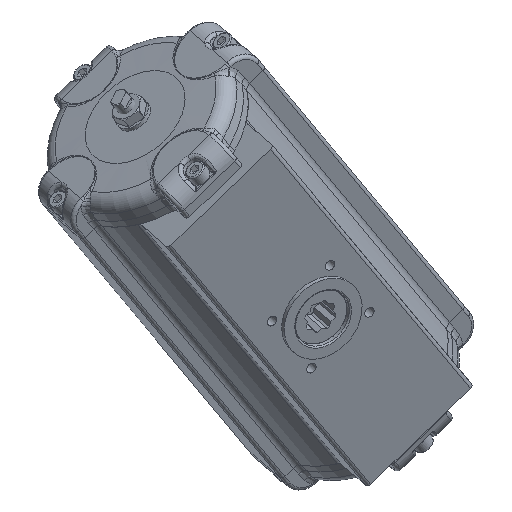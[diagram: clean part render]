
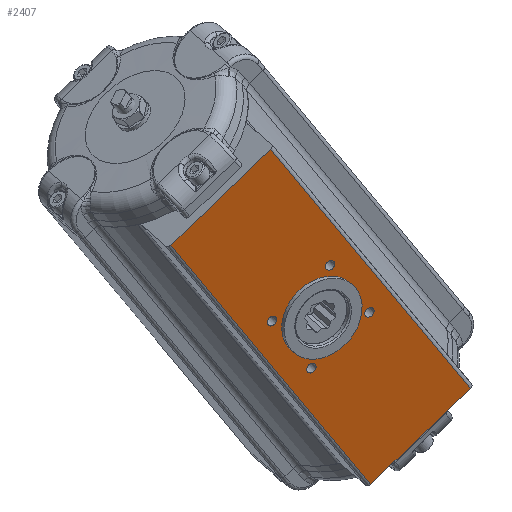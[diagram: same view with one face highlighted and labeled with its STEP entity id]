
A CAD part, isometric view. The second image highlights one B-rep face of the part: STEP entity #2407.
In plain terms, the highlighted planar face has unit normal (-0.259, -0.962, 0.084).
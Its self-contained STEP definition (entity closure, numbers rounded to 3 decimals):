
#660=CARTESIAN_POINT('',(-86.904,-43.078,72.634));
#661=VERTEX_POINT('',#660);
#669=CARTESIAN_POINT('',(-15.8,-58.354,116.633));
#670=VERTEX_POINT('',#669);
#671=CARTESIAN_POINT('',(-15.8,-58.354,116.633));
#672=DIRECTION('',(-0.837,0.18,-0.518));
#673=VECTOR('',#672,85.);
#674=LINE('',#671,#673);
#675=EDGE_CURVE('',#670,#661,#674,.T.);
#1009=CARTESIAN_POINT('',(105.859,-109.841,-97.848));
#1010=VERTEX_POINT('',#1009);
#1018=CARTESIAN_POINT('',(34.755,-94.566,-141.847));
#1019=VERTEX_POINT('',#1018);
#1020=CARTESIAN_POINT('',(34.755,-94.566,-141.847));
#1021=DIRECTION('',(0.837,-0.18,0.518));
#1022=VECTOR('',#1021,85.);
#1023=LINE('',#1020,#1022);
#1024=EDGE_CURVE('',#1019,#1010,#1023,.T.);
#1474=CARTESIAN_POINT('',(-20.398,-67.551,-2.625));
#1475=VERTEX_POINT('',#1474);
#1476=CARTESIAN_POINT('',(-23.178,-66.953,-4.345));
#1477=DIRECTION('',(0.259,0.962,-0.084));
#1478=DIRECTION('',(0.837,-0.18,0.518));
#1479=AXIS2_PLACEMENT_3D('',#1476,#1477,#1478);
#1480=CIRCLE('',#1479,3.324);
#1481=EDGE_CURVE('',#1475,#1475,#1480,.T.);
#1553=CARTESIAN_POINT('',(44.913,-86.563,-19.148));
#1554=VERTEX_POINT('',#1553);
#1555=CARTESIAN_POINT('',(42.133,-85.966,-20.869));
#1556=DIRECTION('',(0.259,0.962,-0.084));
#1557=DIRECTION('',(0.837,-0.18,0.518));
#1558=AXIS2_PLACEMENT_3D('',#1555,#1556,#1557);
#1559=CIRCLE('',#1558,3.324);
#1560=EDGE_CURVE('',#1554,#1554,#1559,.T.);
#1632=CARTESIAN_POINT('',(3.508,-77.668,-44.77));
#1633=VERTEX_POINT('',#1632);
#1634=CARTESIAN_POINT('',(0.728,-77.071,-46.49));
#1635=DIRECTION('',(0.259,0.962,-0.084));
#1636=DIRECTION('',(0.837,-0.18,0.518));
#1637=AXIS2_PLACEMENT_3D('',#1634,#1635,#1636);
#1638=CIRCLE('',#1637,3.324);
#1639=EDGE_CURVE('',#1633,#1633,#1638,.T.);
#1711=CARTESIAN_POINT('',(21.008,-76.446,22.997));
#1712=VERTEX_POINT('',#1711);
#1713=CARTESIAN_POINT('',(18.228,-75.849,21.276));
#1714=DIRECTION('',(0.259,0.962,-0.084));
#1715=DIRECTION('',(0.837,-0.18,0.518));
#1716=AXIS2_PLACEMENT_3D('',#1713,#1714,#1715);
#1717=CIRCLE('',#1716,3.324);
#1718=EDGE_CURVE('',#1712,#1712,#1717,.T.);
#1731=CARTESIAN_POINT('',(-3.804,-70.839,10.808));
#1732=VERTEX_POINT('',#1731);
#1733=CARTESIAN_POINT('',(9.478,-76.46,-12.607));
#1734=DIRECTION('',(0.259,0.962,-0.084));
#1735=DIRECTION('',(-0.483,0.204,0.851));
#1736=AXIS2_PLACEMENT_3D('',#1733,#1734,#1735);
#1737=CIRCLE('',#1736,27.5);
#1738=EDGE_CURVE('',#1732,#1732,#1737,.T.);
#2360=CARTESIAN_POINT('',(-15.8,-58.354,116.633));
#2361=DIRECTION('',(0.483,-0.204,-0.851));
#2362=VECTOR('',#2361,251.9);
#2363=LINE('',#2360,#2362);
#2364=EDGE_CURVE('',#670,#1010,#2363,.T.);
#2376=CARTESIAN_POINT('',(47.121,-84.547,10.687));
#2377=DIRECTION('',(-0.259,-0.962,0.084));
#2378=DIRECTION('',(0.483,-0.204,-0.851));
#2379=AXIS2_PLACEMENT_3D('',#2376,#2377,#2378);
#2380=PLANE('',#2379);
#2381=ORIENTED_EDGE('',*,*,#2364,.F.);
#2382=ORIENTED_EDGE('',*,*,#675,.T.);
#2383=CARTESIAN_POINT('',(34.755,-94.566,-141.847));
#2384=DIRECTION('',(-0.483,0.204,0.851));
#2385=VECTOR('',#2384,251.9);
#2386=LINE('',#2383,#2385);
#2387=EDGE_CURVE('',#1019,#661,#2386,.T.);
#2388=ORIENTED_EDGE('',*,*,#2387,.F.);
#2389=ORIENTED_EDGE('',*,*,#1024,.T.);
#2390=EDGE_LOOP('',(#2381,#2382,#2388,#2389));
#2391=FACE_OUTER_BOUND('',#2390,.T.);
#2392=ORIENTED_EDGE('',*,*,#1481,.T.);
#2393=EDGE_LOOP('',(#2392));
#2394=FACE_BOUND('',#2393,.T.);
#2395=ORIENTED_EDGE('',*,*,#1560,.T.);
#2396=EDGE_LOOP('',(#2395));
#2397=FACE_BOUND('',#2396,.T.);
#2398=ORIENTED_EDGE('',*,*,#1639,.T.);
#2399=EDGE_LOOP('',(#2398));
#2400=FACE_BOUND('',#2399,.T.);
#2401=ORIENTED_EDGE('',*,*,#1718,.T.);
#2402=EDGE_LOOP('',(#2401));
#2403=FACE_BOUND('',#2402,.T.);
#2404=ORIENTED_EDGE('',*,*,#1738,.T.);
#2405=EDGE_LOOP('',(#2404));
#2406=FACE_BOUND('',#2405,.T.);
#2407=ADVANCED_FACE('',(#2391,#2394,#2397,#2400,#2403,#2406),#2380,.T.);
